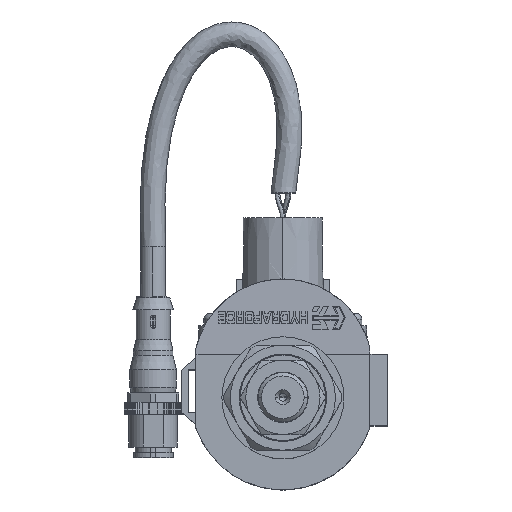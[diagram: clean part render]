
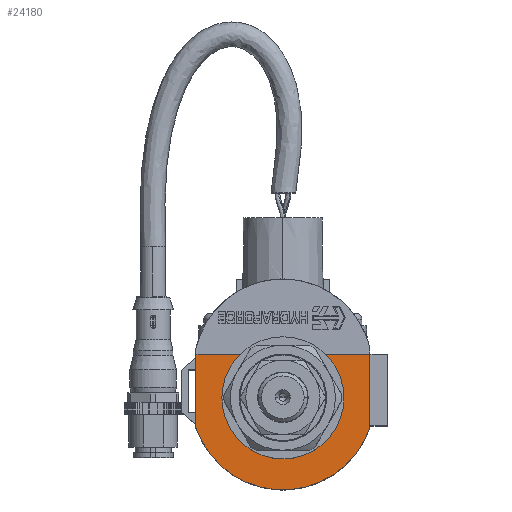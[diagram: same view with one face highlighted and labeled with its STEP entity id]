
A CAD part, top view. The second image highlights one B-rep face of the part: STEP entity #24180.
In plain terms, the highlighted planar face has unit normal (0, 0, 1).
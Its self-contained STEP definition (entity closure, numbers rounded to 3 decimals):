
#6397=DIRECTION('',(-1.,0.,0.));
#6398=VECTOR('',#6397,11.062);
#6399=CARTESIAN_POINT('',(-11.214,11.252,24.384));
#6400=LINE('',#6399,#6398);
#8692=CARTESIAN_POINT('',(0.,0.,24.384));
#8693=DIRECTION('',(0.,0.,1.));
#8694=DIRECTION('',(-0.803,0.596,0.));
#8695=AXIS2_PLACEMENT_3D('',#8692,#8693,#8694);
#8697=CARTESIAN_POINT('',(0.,0.,24.384));
#8698=DIRECTION('',(0.,0.,1.));
#8699=DIRECTION('',(-1.,0.,0.));
#8700=AXIS2_PLACEMENT_3D('',#8697,#8698,#8699);
#8702=CARTESIAN_POINT('',(0.,0.,24.384));
#8703=DIRECTION('',(0.,0.,1.));
#8704=DIRECTION('',(1.,0.,0.));
#8705=AXIS2_PLACEMENT_3D('',#8702,#8703,#8704);
#8707=DIRECTION('',(0.,1.,0.));
#8708=VECTOR('',#8707,2.921);
#8709=CARTESIAN_POINT('',(11.214,8.331,24.384));
#8710=LINE('',#8709,#8708);
#8711=DIRECTION('',(1.,0.,0.));
#8712=VECTOR('',#8711,11.062);
#8713=CARTESIAN_POINT('',(11.214,11.252,24.384));
#8714=LINE('',#8713,#8712);
#8715=DIRECTION('',(0.,-1.,0.));
#8716=VECTOR('',#8715,18.923);
#8717=CARTESIAN_POINT('',(22.276,11.252,24.384));
#8718=LINE('',#8717,#8716);
#8719=CARTESIAN_POINT('',(0.,0.,24.384));
#8720=DIRECTION('',(0.,0.,-1.));
#8721=DIRECTION('',(0.946,-0.326,0.));
#8722=AXIS2_PLACEMENT_3D('',#8719,#8720,#8721);
#8724=DIRECTION('',(0.,1.,0.));
#8725=VECTOR('',#8724,18.923);
#8726=CARTESIAN_POINT('',(-22.276,-7.671,24.384));
#8727=LINE('',#8726,#8725);
#8728=DIRECTION('',(0.,-1.,0.));
#8729=VECTOR('',#8728,2.921);
#8730=CARTESIAN_POINT('',(-11.214,11.252,24.384));
#8731=LINE('',#8730,#8729);
#20120=CARTESIAN_POINT('',(11.214,11.252,24.384));
#20121=CARTESIAN_POINT('',(-11.214,11.252,24.384));
#20122=VERTEX_POINT('',#20120);
#20123=VERTEX_POINT('',#20121);
#20124=CARTESIAN_POINT('',(-22.276,11.252,24.384));
#20125=VERTEX_POINT('',#20124);
#20133=CARTESIAN_POINT('',(22.276,11.252,24.384));
#20134=VERTEX_POINT('',#20133);
#20404=CARTESIAN_POINT('',(-11.214,8.331,24.384));
#20406=VERTEX_POINT('',#20404);
#20413=CARTESIAN_POINT('',(11.214,8.331,24.384));
#20414=VERTEX_POINT('',#20413);
#20602=CARTESIAN_POINT('',(-13.97,0.,24.384));
#20604=VERTEX_POINT('',#20602);
#20643=CARTESIAN_POINT('',(13.97,0.,24.384));
#20644=VERTEX_POINT('',#20643);
#20755=CARTESIAN_POINT('',(22.276,-7.671,24.384));
#20756=VERTEX_POINT('',#20755);
#20757=CARTESIAN_POINT('',(-22.276,-7.671,24.384));
#20758=VERTEX_POINT('',#20757);
#24159=CARTESIAN_POINT('',(0.,11.252,24.384));
#24160=DIRECTION('',(0.,0.,-1.));
#24161=DIRECTION('',(0.,1.,0.));
#24162=AXIS2_PLACEMENT_3D('',#24159,#24160,#24161);
#24163=PLANE('',#24162);
#24164=ORIENTED_EDGE('',*,*,#24044,.T.);
#24165=ORIENTED_EDGE('',*,*,#23867,.T.);
#24166=ORIENTED_EDGE('',*,*,#23988,.T.);
#24168=ORIENTED_EDGE('',*,*,#24167,.T.);
#24169=ORIENTED_EDGE('',*,*,#22957,.T.);
#24171=ORIENTED_EDGE('',*,*,#24170,.T.);
#24173=ORIENTED_EDGE('',*,*,#24172,.T.);
#24175=ORIENTED_EDGE('',*,*,#24174,.T.);
#24176=ORIENTED_EDGE('',*,*,#22945,.F.);
#24177=ORIENTED_EDGE('',*,*,#23319,.T.);
#24178=EDGE_LOOP('',(#24164,#24165,#24166,#24168,#24169,#24171,#24173,#24175,
#24176,#24177));
#24179=FACE_OUTER_BOUND('',#24178,.F.);
#24180=ADVANCED_FACE('',(#24179),#24163,.F.);
#8696=CIRCLE('',#8695,13.97);
#8701=CIRCLE('',#8700,13.97);
#8706=CIRCLE('',#8705,13.97);
#8723=CIRCLE('',#8722,23.56);
#22945=EDGE_CURVE('',#20123,#20125,#6400,.T.);
#22957=EDGE_CURVE('',#20122,#20134,#8714,.T.);
#23319=EDGE_CURVE('',#20123,#20406,#8731,.T.);
#23867=EDGE_CURVE('',#20604,#20644,#8701,.T.);
#23988=EDGE_CURVE('',#20644,#20414,#8706,.T.);
#24044=EDGE_CURVE('',#20406,#20604,#8696,.T.);
#24167=EDGE_CURVE('',#20414,#20122,#8710,.T.);
#24170=EDGE_CURVE('',#20134,#20756,#8718,.T.);
#24172=EDGE_CURVE('',#20756,#20758,#8723,.T.);
#24174=EDGE_CURVE('',#20758,#20125,#8727,.T.);
